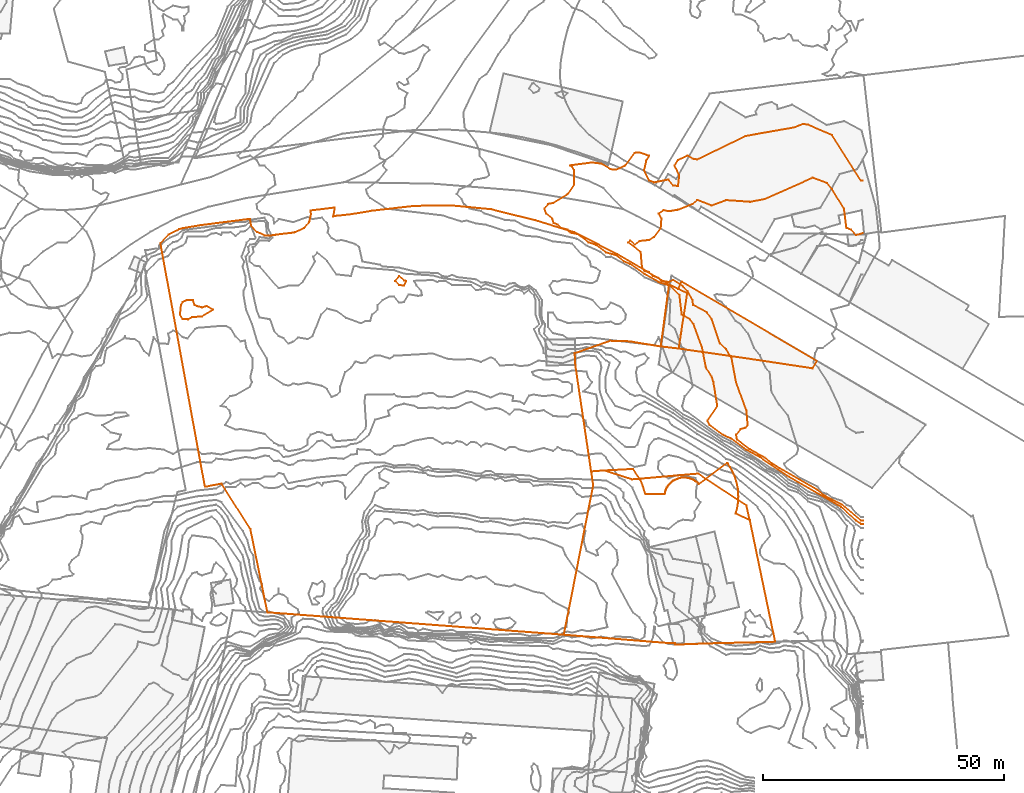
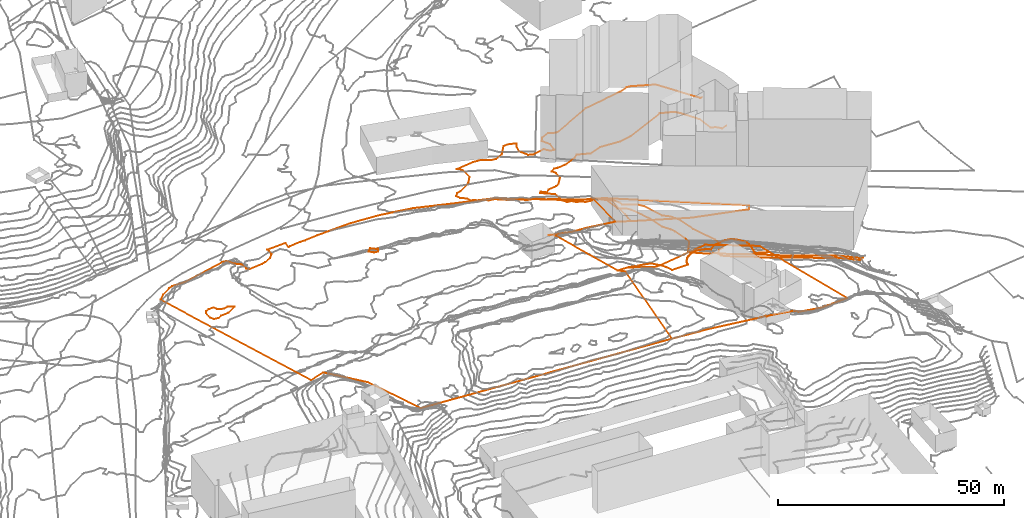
# Not in any storey, part 273 of 419: 12 proxies.
"""IFC2X3 model written with IfcOpenShell, lengths in metres."""

from ifc_helpers import new_model, entity, si_unit, frame, origin_with_axes, place, context, subcontext, project, element, save


model = new_model("IFC2X3")

# Units and contexts
model_context = context("Model", 3, precision=1e-05, world=origin_with_axes())
body_context = subcontext(model_context, "Body", "Model", "MODEL_VIEW")
ifc_project = project(units=[si_unit("AREAUNIT", "SQUARE_METRE"), si_unit("LENGTHUNIT", "METRE")], contexts=[model_context])

# Proxies
proxy_1_placement = place(None, frame((938.0920204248, 536.2376909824, 68.6194024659), z_axis=(0.0, 0.0, 1.0), x_axis=(1.0, 0.0, 0.0)))
element("IfcBuildingElementProxy", 1, at=proxy_1_placement, Name="Cadastre 23", ObjectType="NOTDEFINED", context=body_context, shape_type="GeometricCurveSet", body=[
    entity("IfcGeometricCurveSet", [entity("IfcPolyline", [entity("IfcCartesianPoint", [0.12, -12.4199999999, 1.4917930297]), entity("IfcCartesianPoint", [0.5700000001, -9.5699999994, 1.1321981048]), entity("IfcCartesianPoint", [0.6800000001, -8.7999999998, 1.0437970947]), entity("IfcCartesianPoint", [1.9, -0.8999999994, -0.5800393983]), entity("IfcCartesianPoint", [0.16, -0.0800000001, -0.0367359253]), entity("IfcCartesianPoint", [0.0, 0.0, 0.0]), entity("IfcCartesianPoint", [0.71, 1.4900000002, -0.8939768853]), entity("IfcCartesianPoint", [28.8300000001, -14.9799999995, -2.6779657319]), entity("IfcCartesianPoint", [27.92, -16.5299999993, -2.5292005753]), entity("IfcCartesianPoint", [14.3200000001, -14.4799999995, -1.3087616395]), entity("IfcCartesianPoint", [0.12, -12.4199999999, 1.4917930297])])]),
])
proxy_2_placement = place(None, frame((943.8620204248, 496.7376909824, 78.1168574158), z_axis=(0.0, 0.0, 1.0), x_axis=(1.0, 0.0, 0.0)))
element("IfcBuildingElementProxy", 2, at=proxy_2_placement, Name="Cadastre 24", ObjectType="NOTDEFINED", context=body_context, shape_type="GeometricCurveSet", body=[
    entity("IfcGeometricCurveSet", [entity("IfcPolyline", [entity("IfcCartesianPoint", [0.0, 0.0, 0.0]), entity("IfcCartesianPoint", [4.45, 3.3300000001, -2.3448057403]), entity("IfcCartesianPoint", [4.59, 3.1400000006, -2.2209138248]), entity("IfcCartesianPoint", [5.03, 2.46, -1.7858578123]), entity("IfcCartesianPoint", [5.4399999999, 1.7600000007, -1.3642059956]), entity("IfcCartesianPoint", [5.78, 1.0200000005, -1.1222341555]), entity("IfcCartesianPoint", [6.09, 0.2600000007, -0.9206163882]), entity("IfcCartesianPoint", [6.33, -0.5099999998, -0.6738766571]), entity("IfcCartesianPoint", [6.53, -1.2999999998, -0.4233367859]), entity("IfcCartesianPoint", [6.67, -2.0999999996, -0.1722194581]), entity("IfcCartesianPoint", [6.74, -2.9100000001, 0.0203690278]), entity("IfcCartesianPoint", [6.76, -3.7199999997, 0.120927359]), entity("IfcCartesianPoint", [6.73, -4.4299999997, 0.1332446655]), entity("IfcCartesianPoint", [0.0, 0.0, 0.0])])]),
])
proxy_3_placement = place(None, frame((950.0720204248, 489.5176909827, 78.1532950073), z_axis=(0.0, 0.0, 1.0), x_axis=(1.0, 0.0, 0.0)))
element("IfcBuildingElementProxy", 3, at=proxy_3_placement, Name="Cadastre 25", ObjectType="NOTDEFINED", context=body_context, shape_type="GeometricCurveSet", body=[
    entity("IfcGeometricCurveSet", [entity("IfcPolyline", [entity("IfcCartesianPoint", [2.9400000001, -1.4000000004, 0.0176576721]), entity("IfcCartesianPoint", [0.0, 0.0, 0.0]), entity("IfcCartesianPoint", [0.0800000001, 0.29, -0.0015796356]), entity("IfcCartesianPoint", [0.28, 1.0800000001, -0.0088946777]), entity("IfcCartesianPoint", [0.4300000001, 1.8799999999, -0.0023932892]), entity("IfcCartesianPoint", [0.52, 2.6900000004, 0.085807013]), entity("IfcCartesianPoint", [0.52, 2.79, 0.096807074]), entity("IfcCartesianPoint", [2.23, 1.6699999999, 0.0846229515]), entity("IfcCartesianPoint", [2.9400000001, -1.4000000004, 0.0176576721])])]),
])
proxy_4_placement = place(None, frame((930.0820204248, 496.7576909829, 77.4252278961), z_axis=(0.0, 0.0, 1.0), x_axis=(1.0, 0.0, 0.0)))
element("IfcBuildingElementProxy", 4, at=proxy_4_placement, Name="Cadastre 27", ObjectType="NOTDEFINED", context=body_context, shape_type="GeometricCurveSet", body=[
    entity("IfcGeometricCurveSet", [entity("IfcPolyline", [entity("IfcCartesianPoint", [13.78, -0.0200000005, 0.6916295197]), entity("IfcCartesianPoint", [12.3200000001, -1.1100000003, 0.6291952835]), entity("IfcCartesianPoint", [12.23, -1.0099999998, 0.6249704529]), entity("IfcCartesianPoint", [12.02, -0.7999999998, 0.6119506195]), entity("IfcCartesianPoint", [11.8, -0.6200000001, 0.5946005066]), entity("IfcCartesianPoint", [11.5700000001, -0.4500000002, 0.5729001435]), entity("IfcCartesianPoint", [11.3300000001, -0.2999999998, 0.5491102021]), entity("IfcCartesianPoint", [11.0800000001, -0.1699999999, 0.5315556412]), entity("IfcCartesianPoint", [10.8200000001, -0.04, 0.5164113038]), entity("IfcCartesianPoint", [10.55, 0.0499999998, 0.5007521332]), entity("IfcCartesianPoint", [10.29, 0.1299999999, 0.4984060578]), entity("IfcCartesianPoint", [10.01, 0.1899999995, 0.4970217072]), entity("IfcCartesianPoint", [9.73, 0.2299999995, 0.494577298]), entity("IfcCartesianPoint", [9.4400000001, 0.2599999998, 0.4886731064]), entity("IfcCartesianPoint", [9.16, 0.2599999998, 0.4714817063]), entity("IfcCartesianPoint", [8.87, 0.2400000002, 0.4510922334]), entity("IfcCartesianPoint", [8.5900000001, 0.2000000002, 0.4282285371]), entity("IfcCartesianPoint", [8.3100000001, 0.1499999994, 0.4112327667]), entity("IfcCartesianPoint", [8.03, 0.0699999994, 0.3919651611]), entity("IfcCartesianPoint", [7.76, -0.0300000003, 0.3683989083]), entity("IfcCartesianPoint", [7.5, -0.1500000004, 0.3403220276]), entity("IfcCartesianPoint", [7.25, -0.2800000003, 0.3120298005]), entity("IfcCartesianPoint", [7.01, -0.4199999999, 0.2912721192]), entity("IfcCartesianPoint", [6.78, -0.5899999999, 0.2902075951]), entity("IfcCartesianPoint", [6.5600000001, -0.7700000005, 0.2920546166]), entity("IfcCartesianPoint", [6.35, -0.9700000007, 0.2904657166]), entity("IfcCartesianPoint", [6.15, -1.1800000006, 0.2849619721]), entity("IfcCartesianPoint", [5.98, -1.4100000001, 0.2777601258]), entity("IfcCartesianPoint", [5.8200000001, -1.6400000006, 0.2696620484]), entity("IfcCartesianPoint", [5.67, -1.8799999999, 0.2665777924]), entity("IfcCartesianPoint", [5.55, -2.1400000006, 0.2690973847]), entity("IfcCartesianPoint", [5.4400000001, -2.4000000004, 0.2760135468]), entity("IfcCartesianPoint", [5.3400000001, -2.6699999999, 0.2875167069]), entity("IfcCartesianPoint", [5.27, -2.9500000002, 0.2990395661]), entity("IfcCartesianPoint", [5.23, -3.2000000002, 0.3092681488]), entity("IfcCartesianPoint", [1.2100000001, -3.2200000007, 0.2605711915]), entity("IfcCartesianPoint", [0.6800000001, -1.4100000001, 0.1153161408]), entity("IfcCartesianPoint", [0.2100000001, -0.3200000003, 0.0375326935]), entity("IfcCartesianPoint", [0.0, 0.0, 0.0]), entity("IfcCartesianPoint", [12.12, 1.0699999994, 0.6643958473]), entity("IfcCartesianPoint", [13.78, -0.0200000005, 0.6916295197])])]),
])
proxy_5_placement = place(None, frame((914.3420204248, 464.3176909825, 82.7742980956), z_axis=(0.0, 0.0, 1.0), x_axis=(1.0, 0.0, 0.0)))
element("IfcBuildingElementProxy", 5, at=proxy_5_placement, Name="Cadastre 28", ObjectType="NOTDEFINED", context=body_context, shape_type="GeometricCurveSet", body=[
    entity("IfcGeometricCurveSet", [entity("IfcPolyline", [entity("IfcCartesianPoint", [23.09, -2.0199999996, -0.8475756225]), entity("IfcCartesianPoint", [23.1, -1.7000000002, -0.8173461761]), entity("IfcCartesianPoint", [21.9400000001, -1.75, -0.8342955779]), entity("IfcCartesianPoint", [8.76, -0.7000000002, -0.1083566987]), entity("IfcCartesianPoint", [0.0, 0.0, 0.0]), entity("IfcCartesianPoint", [6.11, 31.1500000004, -2.8559987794]), entity("IfcCartesianPoint", [5.6900000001, 33.96, -4.1640266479]), entity("IfcCartesianPoint", [8.34, 34.1600000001, -4.3668207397]), entity("IfcCartesianPoint", [14.14, 32.2999999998, -5.1784969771]), entity("IfcCartesianPoint", [15.74, 32.4400000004, -5.3490701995]), entity("IfcCartesianPoint", [15.9500000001, 32.1200000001, -5.311537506]), entity("IfcCartesianPoint", [16.42, 31.0300000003, -5.2337540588]), entity("IfcCartesianPoint", [16.9500000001, 29.2199999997, -5.0884990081]), entity("IfcCartesianPoint", [20.97, 29.2400000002, -5.0398020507]), entity("IfcCartesianPoint", [21.01, 29.4900000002, -5.0500306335]), entity("IfcCartesianPoint", [21.0800000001, 29.7700000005, -5.0615534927]), entity("IfcCartesianPoint", [21.1800000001, 30.04, -5.0730566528]), entity("IfcCartesianPoint", [21.29, 30.2999999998, -5.0799728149]), entity("IfcCartesianPoint", [21.41, 30.5600000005, -5.0824924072]), entity("IfcCartesianPoint", [21.5600000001, 30.7999999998, -5.0794081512]), entity("IfcCartesianPoint", [21.72, 31.0300000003, -5.0713100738]), entity("IfcCartesianPoint", [21.89, 31.2599999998, -5.0641082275]), entity("IfcCartesianPoint", [22.09, 31.4699999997, -5.0586044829]), entity("IfcCartesianPoint", [22.3, 31.6699999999, -5.057015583]), entity("IfcCartesianPoint", [22.52, 31.8500000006, -5.0588626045]), entity("IfcCartesianPoint", [22.75, 32.0200000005, -5.0577980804]), entity("IfcCartesianPoint", [22.99, 32.1600000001, -5.0370403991]), entity("IfcCartesianPoint", [23.24, 32.29, -5.0087481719]), entity("IfcCartesianPoint", [23.5, 32.4100000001, -4.9806712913]), entity("IfcCartesianPoint", [23.77, 32.5099999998, -4.9571050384]), entity("IfcCartesianPoint", [24.05, 32.5899999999, -4.9378374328]), entity("IfcCartesianPoint", [24.3300000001, 32.6400000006, -4.9208416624]), entity("IfcCartesianPoint", [24.61, 32.6800000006, -4.8979779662]), entity("IfcCartesianPoint", [24.9, 32.7000000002, -4.8775884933]), entity("IfcCartesianPoint", [25.1800000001, 32.7000000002, -4.8603970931]), entity("IfcCartesianPoint", [25.47, 32.6699999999, -4.8544929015]), entity("IfcCartesianPoint", [25.75, 32.6299999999, -4.8520484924]), entity("IfcCartesianPoint", [26.03, 32.5700000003, -4.8506641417]), entity("IfcCartesianPoint", [26.29, 32.4900000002, -4.8483180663]), entity("IfcCartesianPoint", [26.5600000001, 32.4000000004, -4.8326588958]), entity("IfcCartesianPoint", [26.8200000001, 32.2700000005, -4.8175145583]), entity("IfcCartesianPoint", [27.0700000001, 32.1400000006, -4.7999599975]), entity("IfcCartesianPoint", [27.3100000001, 31.9900000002, -4.7761700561]), entity("IfcCartesianPoint", [27.54, 31.8200000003, -4.7544696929]), entity("IfcCartesianPoint", [27.76, 31.6400000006, -4.73711958]), entity("IfcCartesianPoint", [27.97, 31.4300000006, -4.7240997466]), entity("IfcCartesianPoint", [28.0600000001, 31.3300000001, -4.719874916]), entity("IfcCartesianPoint", [29.52, 32.4199999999, -4.6574406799]), entity("IfcCartesianPoint", [36.25, 27.9900000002, -4.5241960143]), entity("IfcCartesianPoint", [36.25, 27.8900000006, -4.5351960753]), entity("IfcCartesianPoint", [36.16, 27.0800000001, -4.6233963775]), entity("IfcCartesianPoint", [36.01, 26.2800000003, -4.629897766]), entity("IfcCartesianPoint", [35.8100000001, 25.4900000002, -4.6225827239]), entity("IfcCartesianPoint", [35.73, 25.2000000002, -4.6210030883]), entity("IfcCartesianPoint", [38.67, 23.7999999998, -4.6033454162]), entity("IfcCartesianPoint", [43.9500000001, -1.4500000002, -3.5322890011]), entity("IfcCartesianPoint", [38.98, -1.5899999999, -3.665506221]), entity("IfcCartesianPoint", [38.02, -1.6600000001, -3.6033677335]), entity("IfcCartesianPoint", [37.1800000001, -1.6299999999, -3.6729988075]), entity("IfcCartesianPoint", [31.62, -1.75, -2.7162940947]), entity("IfcCartesianPoint", [30.09, -1.7999999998, -1.9153514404]), entity("IfcCartesianPoint", [23.85, -2.0199999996, -0.8434960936]), entity("IfcCartesianPoint", [23.09, -2.0199999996, -0.8475756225])])]),
])
proxy_6_placement = place(None, frame((934.4920204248, 524.2476909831, 71.0363506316), z_axis=(0.0, 0.0, 1.0), x_axis=(1.0, 0.0, 0.0)))
element("IfcBuildingElementProxy", 6, at=proxy_6_placement, Name="Cadastre 29", ObjectType="NOTDEFINED", context=body_context, shape_type="GeometricCurveSet", body=[
    entity("IfcGeometricCurveSet", [entity("IfcPolyline", [entity("IfcCartesianPoint", [1.73, 12.8599999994, -2.196946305]), entity("IfcCartesianPoint", [3.6, 11.9899999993, -2.4169481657]), entity("IfcCartesianPoint", [3.76, 11.9099999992, -2.453684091]), entity("IfcCartesianPoint", [5.5, 11.0899999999, -2.9969875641]), entity("IfcCartesianPoint", [4.28, 3.1899999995, -1.3731510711]), entity("IfcCartesianPoint", [4.17, 2.4199999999, -1.284750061]), entity("IfcCartesianPoint", [3.72, -0.4300000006, -0.925155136]), entity("IfcCartesianPoint", [0.16, -0.0200000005, -0.0556657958]), entity("IfcCartesianPoint", [0.0, 0.0, 0.0]), entity("IfcCartesianPoint", [1.73, 12.8599999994, -2.196946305])])]),
])
proxy_7_placement = place(None, frame((922.6820204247, 498.4776909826, 78.4074773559), z_axis=(0.0, 0.0, 1.0), x_axis=(1.0, 0.0, 0.0)))
element("IfcBuildingElementProxy", 7, at=proxy_7_placement, Name="Cadastre 30", ObjectType="NOTDEFINED", context=body_context, shape_type="GeometricCurveSet", body=[
    entity("IfcGeometricCurveSet", [entity("IfcPolyline", [entity("IfcCartesianPoint", [6.1000000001, 0.3099999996, -1.2453370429]), entity("IfcCartesianPoint", [7.4, -1.7199999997, -0.9822494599]), entity("IfcCartesianPoint", [5.8, -1.8600000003, -0.8116762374]), entity("IfcCartesianPoint", [0.0, 0.0, 0.0]), entity("IfcCartesianPoint", [6.1000000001, 0.3099999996, -1.2453370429])])]),
])
proxy_8_placement = place(None, frame((830.4720204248, 545.7876909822, 73.2470469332), z_axis=(0.0, 0.0, 1.0), x_axis=(1.0, 0.0, 0.0)))
element("IfcBuildingElementProxy", 8, at=proxy_8_placement, Name="Cadastre 50", ObjectType="NOTDEFINED", context=body_context, shape_type="GeometricCurveSet", body=[
    entity("IfcGeometricCurveSet", [entity("IfcPolyline", [entity("IfcCartesianPoint", [22.26, -76.8099999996, 9.4630148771]), entity("IfcCartesianPoint", [18.71, -59.4899999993, 7.2259738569]), entity("IfcCartesianPoint", [12.71, -50.0399999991, 6.2275061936]), entity("IfcCartesianPoint", [9.26, -50.6999999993, 5.7522873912]), entity("IfcCartesianPoint", [0.0, 0.0, 0.0]), entity("IfcCartesianPoint", [1.73, 1.7600000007, -0.2564165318]), entity("IfcCartesianPoint", [3.9300000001, 2.8700000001, 0.0502093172]), entity("IfcCartesianPoint", [4.73, 3.0700000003, 0.1893047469]), entity("IfcCartesianPoint", [8.34, 3.6900000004, -0.3896942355]), entity("IfcCartesianPoint", [18.62, 5.0, 0.5966544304]), entity("IfcCartesianPoint", [18.87, 3.6000000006, 1.7135040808]), entity("IfcCartesianPoint", [20.0600000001, 2.2700000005, 1.3706558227]), entity("IfcCartesianPoint", [21.7000000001, 1.5700000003, 1.0373764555]), entity("IfcCartesianPoint", [22.87, 1.54, -0.4558951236]), entity("IfcCartesianPoint", [23.79, 1.6800000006, -1.0429295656]), entity("IfcCartesianPoint", [27.17, 2.0900000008, -1.0643866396]), entity("IfcCartesianPoint", [28.05, 2.2300000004, -1.0287142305]), entity("IfcCartesianPoint", [29.86, 3.0900000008, -1.0197358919]), entity("IfcCartesianPoint", [30.9400000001, 4.3600000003, -1.0595457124]), entity("IfcCartesianPoint", [31.3, 5.9800000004, -1.3444128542]), entity("IfcCartesianPoint", [31.2000000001, 6.75, -1.4836073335]), entity("IfcCartesianPoint", [36.25, 7.3500000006, -1.763319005]), entity("IfcCartesianPoint", [35.9500000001, 5.5100000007, -1.6263890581]), entity("IfcCartesianPoint", [36.4, 5.6300000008, -1.6444497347]), entity("IfcCartesianPoint", [39.16, 5.8900000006, -1.6226331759]), entity("IfcCartesianPoint", [40.48, 6.1000000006, -1.7905605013]), entity("IfcCartesianPoint", [44.05, 6.6900000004, -1.9987007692]), entity("IfcCartesianPoint", [52.8200000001, 7.7000000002, -2.5131559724]), entity("IfcCartesianPoint", [60.67, 7.7700000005, -3.0071264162]), entity("IfcCartesianPoint", [68.7000000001, 6.9900000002, -3.5082188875]), entity("IfcCartesianPoint", [77.87, 4.7100000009, -4.0332974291]), entity("IfcCartesianPoint", [86.01, 2.2200000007, -4.0934248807]), entity("IfcCartesianPoint", [94.9500000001, -2.3299999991, -4.6351375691]), entity("IfcCartesianPoint", [102.67, -6.8599999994, -4.9113807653]), entity("IfcCartesianPoint", [105.75, -8.6799999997, -4.4076426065]), entity("IfcCartesianPoint", [104.02, -21.5399999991, -2.2106963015]), entity("IfcCartesianPoint", [97.49, -20.4699999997, -2.1797906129]), entity("IfcCartesianPoint", [93.46, -20.3499999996, -2.002348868]), entity("IfcCartesianPoint", [86.12, -22.9499999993, 1.30775104]), entity("IfcCartesianPoint", [86.27, -25.4399999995, 2.6510275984]), entity("IfcCartesianPoint", [89.5600000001, -47.5099999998, 5.3632245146]), entity("IfcCartesianPoint", [89.98, -50.3199999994, 6.6712523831]), entity("IfcCartesianPoint", [83.87, -81.4699999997, 9.5272511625]), entity("IfcCartesianPoint", [22.26, -76.8099999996, 9.4630148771])])]),
])
proxy_9_placement = place(None, frame((879.2349087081, 537.8976909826, 74.0), z_axis=(0.0, 0.0, 1.0), x_axis=(1.0, 0.0, 0.0)))
element("IfcBuildingElementProxy", 9, at=proxy_9_placement, Name="Contour 74.0 m", ObjectType="NOTDEFINED", context=body_context, shape_type="GeometricCurveSet", body=[
    entity("IfcGeometricCurveSet", [entity("IfcPolyline", [entity("IfcCartesianPoint", [1.8571450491, -1.0, 0.0]), entity("IfcCartesianPoint", [0.8571117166, -0.8571117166, 0.0]), entity("IfcCartesianPoint", [0.0, 0.0, 0.0]), entity("IfcCartesianPoint", [0.857011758, 1.0, 0.0]), entity("IfcCartesianPoint", [1.8571117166, 0.0727285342, 0.0]), entity("IfcCartesianPoint", [2.357124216, 0.0, 0.0]), entity("IfcCartesianPoint", [1.8571450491, -1.0, 0.0])])]),
])
proxy_10_placement = place(None, frame((834.5503603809, 530.8976909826, 76.0), z_axis=(0.0, 0.0, 1.0), x_axis=(1.0, 0.0, 0.0)))
element("IfcBuildingElementProxy", 10, at=proxy_10_placement, Name="Contour 76.0 m", ObjectType="NOTDEFINED", context=body_context, shape_type="GeometricCurveSet", body=[
    entity("IfcGeometricCurveSet", [entity("IfcPolyline", [entity("IfcCartesianPoint", [1.6250092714, -1.0, 0.0]), entity("IfcCartesianPoint", [0.5416600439, -0.9285558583, 0.0]), entity("IfcCartesianPoint", [0.0, 0.0, 0.0]), entity("IfcCartesianPoint", [0.1887294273, 2.0, 0.0]), entity("IfcCartesianPoint", [0.5416600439, 2.5999847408, 0.0]), entity("IfcCartesianPoint", [1.3416295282, 3.0, 0.0]), entity("IfcCartesianPoint", [2.6845483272, 3.0, 0.0]), entity("IfcCartesianPoint", [3.0416725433, 2.0, 0.0]), entity("IfcCartesianPoint", [3.5416600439, 1.7142779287, 0.0]), entity("IfcCartesianPoint", [4.5416600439, 1.5000050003, 0.0]), entity("IfcCartesianPoint", [5.5416600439, 1.750007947, 0.0]), entity("IfcCartesianPoint", [6.8749933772, 1.0, 0.0]), entity("IfcCartesianPoint", [4.5416600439, -0.3793112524, 0.0]), entity("IfcCartesianPoint", [2.5416600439, -0.5599975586, 0.0]), entity("IfcCartesianPoint", [1.6250092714, -1.0, 0.0])])]),
])
proxy_11_placement = place(None, frame((927.6920051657, 545.8976909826, 68.0), z_axis=(0.0, 0.0, 1.0), x_axis=(1.0, 0.0, 0.0)))
element("IfcBuildingElementProxy", 11, at=proxy_11_placement, Name="Contour 68.0 m", ObjectType="NOTDEFINED", context=body_context, shape_type="GeometricCurveSet", body=[
    entity("IfcGeometricCurveSet", [entity("IfcPolyline", [entity("IfcCartesianPoint", [48.900015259, 1.9710191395, 0.0]), entity("IfcCartesianPoint", [47.400015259, 1.5128134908, 0.0]), entity("IfcCartesianPoint", [46.400015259, 2.6206887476, 0.0]), entity("IfcCartesianPoint", [45.4000112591, 3.0, 0.0]), entity("IfcCartesianPoint", [44.9000097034, 7.0, 0.0]), entity("IfcCartesianPoint", [42.400015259, 11.1111299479, 0.0]), entity("IfcCartesianPoint", [41.400015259, 12.333333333, 0.0]), entity("IfcCartesianPoint", [38.400015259, 13.4444350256, 0.0]), entity("IfcCartesianPoint", [28.400015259, 8.9999875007, 0.0]), entity("IfcCartesianPoint", [25.400015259, 8.4285558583, 0.0]), entity("IfcCartesianPoint", [20.400015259, 8.7778060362, 0.0]), entity("IfcCartesianPoint", [17.400015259, 7.666666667, 0.0]), entity("IfcCartesianPoint", [14.400015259, 8.8333121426, 0.0]), entity("IfcCartesianPoint", [13.400015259, 7.9999833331, 0.0]), entity("IfcCartesianPoint", [10.400015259, 6.7778060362, 0.0]), entity("IfcCartesianPoint", [8.400015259, 6.4666598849, 0.0]), entity("IfcCartesianPoint", [7.400015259, 6.7000076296, 0.0]), entity("IfcCartesianPoint", [6.4000295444, 6.0, 0.0]), entity("IfcCartesianPoint", [6.9555802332, 5.0, 0.0]), entity("IfcCartesianPoint", [6.7999847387, 3.0, 0.0]), entity("IfcCartesianPoint", [5.400015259, 1.1428882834, 0.0]), entity("IfcCartesianPoint", [4.400015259, 0.4999833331, 0.0]), entity("IfcCartesianPoint", [2.400015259, 0.285667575, 0.0]), entity("IfcCartesianPoint", [1.400015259, -0.5000250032, 0.0]), entity("IfcCartesianPoint", [0.400015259, 0.4000152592, 0.0]), entity("IfcCartesianPoint", [0.0, 0.0, 0.0]), entity("IfcCartesianPoint", [2.6307799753, -2.0, 0.0]), entity("IfcCartesianPoint", [2.9000319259, -5.0, 0.0]), entity("IfcCartesianPoint", [3.4000235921, -6.0, 0.0]), entity("IfcCartesianPoint", [4.400015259, -6.1379337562, 0.0]), entity("IfcCartesianPoint", [5.2152342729, -7.0, 0.0]), entity("IfcCartesianPoint", [6.400015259, -7.4310331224, 0.0]), entity("IfcCartesianPoint", [6.932273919, -8.0, 0.0]), entity("IfcCartesianPoint", [8.400015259, -8.2307699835, 0.0]), entity("IfcCartesianPoint", [9.400015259, -7.7968790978, 0.0]), entity("IfcCartesianPoint", [11.400015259, -9.1395291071, 0.0]), entity("IfcCartesianPoint", [12.400015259, -10.1481491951, 0.0]), entity("IfcCartesianPoint", [13.4000175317, -12.0, 0.0]), entity("IfcCartesianPoint", [13.5333316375, -13.0, 0.0]), entity("IfcCartesianPoint", [16.400015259, -14.565215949, 0.0]), entity("IfcCartesianPoint", [17.400015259, -15.9166507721, 0.0]), entity("IfcCartesianPoint", [19.0875033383, -21.0, 0.0]), entity("IfcCartesianPoint", [20.400015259, -22.1999694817, 0.0]), entity("IfcCartesianPoint", [21.5, -24.0, 0.0]), entity("IfcCartesianPoint", [22.4555825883, -29.0, 0.0]), entity("IfcCartesianPoint", [24.6142931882, -35.0, 0.0]), entity("IfcCartesianPoint", [24.8762005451, -38.0, 0.0]), entity("IfcCartesianPoint", [24.400015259, -38.5263221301, 0.0]), entity("IfcCartesianPoint", [23.400015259, -38.8000305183, 0.0]), entity("IfcCartesianPoint", [22.4666954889, -40.0, 0.0]), entity("IfcCartesianPoint", [22.6500212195, -41.0, 0.0]), entity("IfcCartesianPoint", [25.2504801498, -43.0, 0.0]), entity("IfcCartesianPoint", [28.400015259, -44.74390346, 0.0]), entity("IfcCartesianPoint", [29.9000159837, -46.0, 0.0]), entity("IfcCartesianPoint", [39.400015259, -51.4748592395, 0.0]), entity("IfcCartesianPoint", [40.400015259, -52.4227647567, 0.0]), entity("IfcCartesianPoint", [44.400015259, -54.4701974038, 0.0]), entity("IfcCartesianPoint", [48.400015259, -57.8521131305, 0.0]), entity("IfcCartesianPoint", [48.900015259, -57.8521131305, 0.0])])]),
])
proxy_12_placement = place(None, frame((910.2919899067, 552.8976909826, 69.0), z_axis=(0.0, 0.0, 1.0), x_axis=(1.0, 0.0, 0.0)))
element("IfcBuildingElementProxy", 12, at=proxy_12_placement, Name="Contour 69.0 m", ObjectType="NOTDEFINED", context=body_context, shape_type="GeometricCurveSet", body=[
    entity("IfcGeometricCurveSet", [entity("IfcPolyline", [entity("IfcCartesianPoint", [66.3000305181, 5.8749761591, 0.0]), entity("IfcCartesianPoint", [65.8000305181, 5.8749761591, 0.0]), entity("IfcCartesianPoint", [59.8000305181, 15.2999923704, 0.0]), entity("IfcCartesianPoint", [54.8000305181, 17.4444350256, 0.0]), entity("IfcCartesianPoint", [53.8000305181, 17.6250238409, 0.0]), entity("IfcCartesianPoint", [51.8000305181, 16.8749761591, 0.0]), entity("IfcCartesianPoint", [41.8000305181, 15.1111299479, 0.0]), entity("IfcCartesianPoint", [31.8000305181, 10.2221939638, 0.0]), entity("IfcCartesianPoint", [30.8000305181, 10.3846244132, 0.0]), entity("IfcCartesianPoint", [29.8000305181, 11.0384694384, 0.0]), entity("IfcCartesianPoint", [27.8000305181, 10.1600036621, 0.0]), entity("IfcCartesianPoint", [27.0592918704, 9.0, 0.0]), entity("IfcCartesianPoint", [28.0361386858, 7.0, 0.0]), entity("IfcCartesianPoint", [27.8000305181, 4.6923031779, 0.0]), entity("IfcCartesianPoint", [26.8000305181, 4.8518508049, 0.0]), entity("IfcCartesianPoint", [25.8000305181, 6.0833298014, 0.0]), entity("IfcCartesianPoint", [22.8000305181, 5.4736884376, 0.0]), entity("IfcCartesianPoint", [21.8000305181, 5.8571366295, 0.0]), entity("IfcCartesianPoint", [20.7394335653, 8.0, 0.0]), entity("IfcCartesianPoint", [21.1939685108, 10.0, 0.0]), entity("IfcCartesianPoint", [21.8000055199, 11.0, 0.0]), entity("IfcCartesianPoint", [19.8000305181, 11.666666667, 0.0]), entity("IfcCartesianPoint", [18.8000305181, 11.6190372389, 0.0]), entity("IfcCartesianPoint", [16.8000305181, 8.94118571, 0.0]), entity("IfcCartesianPoint", [14.8000305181, 8.0961589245, 0.0]), entity("IfcCartesianPoint", [13.8000305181, 8.2092973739, 0.0]), entity("IfcCartesianPoint", [11.8000305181, 9.3749940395, 0.0]), entity("IfcCartesianPoint", [9.8000305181, 9.5999847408, 0.0]), entity("IfcCartesianPoint", [5.3000805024, 9.0, 0.0]), entity("IfcCartesianPoint", [5.8000305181, 8.7499523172, 0.0]), entity("IfcCartesianPoint", [6.1750066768, 8.0, 0.0]), entity("IfcCartesianPoint", [6.2285863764, 5.0, 0.0]), entity("IfcCartesianPoint", [4.8000638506, 3.0, 0.0]), entity("IfcCartesianPoint", [1.8000305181, 1.2000305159, 0.0]), entity("IfcCartesianPoint", [0.8000305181, 0.9999875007, 0.0]), entity("IfcCartesianPoint", [0.0, 0.0, 0.0]), entity("IfcCartesianPoint", [0.4000610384, -1.0, 0.0]), entity("IfcCartesianPoint", [1.6333426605, -2.0, 0.0]), entity("IfcCartesianPoint", [1.9429188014, -3.0, 0.0]), entity("IfcCartesianPoint", [2.8000305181, -3.3157852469, 0.0]), entity("IfcCartesianPoint", [3.4842452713, -4.0, 0.0]), entity("IfcCartesianPoint", [4.8000305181, -4.3448212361, 0.0]), entity("IfcCartesianPoint", [5.4129313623, -5.0, 0.0]), entity("IfcCartesianPoint", [6.8000305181, -5.2417586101, 0.0]), entity("IfcCartesianPoint", [9.2285984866, -7.0, 0.0]), entity("IfcCartesianPoint", [10.8000305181, -7.5555546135, 0.0]), entity("IfcCartesianPoint", [12.8000305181, -9.0961522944, 0.0]), entity("IfcCartesianPoint", [14.8000305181, -9.6271166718, 0.0]), entity("IfcCartesianPoint", [16.6111439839, -11.0, 0.0]), entity("IfcCartesianPoint", [17.8000305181, -11.470928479, 0.0]), entity("IfcCartesianPoint", [20.8000305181, -13.5917151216, 0.0]), entity("IfcCartesianPoint", [23.8000305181, -15.2745899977, 0.0]), entity("IfcCartesianPoint", [26.0631862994, -16.0, 0.0]), entity("IfcCartesianPoint", [28.0791064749, -18.0, 0.0]), entity("IfcCartesianPoint", [28.5692658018, -22.0, 0.0]), entity("IfcCartesianPoint", [30.2737083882, -23.0, 0.0]), entity("IfcCartesianPoint", [31.0083717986, -24.0, 0.0]), entity("IfcCartesianPoint", [32.8000305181, -28.8749761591, 0.0]), entity("IfcCartesianPoint", [33.5857525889, -33.0, 0.0]), entity("IfcCartesianPoint", [34.8000305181, -34.8888700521, 0.0]), entity("IfcCartesianPoint", [35.1500343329, -36.0, 0.0]), entity("IfcCartesianPoint", [35.9579168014, -41.0, 0.0]), entity("IfcCartesianPoint", [33.8833797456, -44.0, 0.0]), entity("IfcCartesianPoint", [34.3750367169, -45.0, 0.0]), entity("IfcCartesianPoint", [37.0344081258, -47.0, 0.0]), entity("IfcCartesianPoint", [38.8000305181, -47.7614667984, 0.0]), entity("IfcCartesianPoint", [41.8000305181, -50.0447744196, 0.0]), entity("IfcCartesianPoint", [44.8000305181, -51.6823532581, 0.0]), entity("IfcCartesianPoint", [50.8000305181, -55.7175135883, 0.0]), entity("IfcCartesianPoint", [61.6684532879, -62.0, 0.0]), entity("IfcCartesianPoint", [64.8000305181, -64.860464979, 0.0]), entity("IfcCartesianPoint", [65.8000305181, -65.5374151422, 0.0]), entity("IfcCartesianPoint", [66.3000305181, -65.5374151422, 0.0])])]),
])

save(model, "model.ifc")
